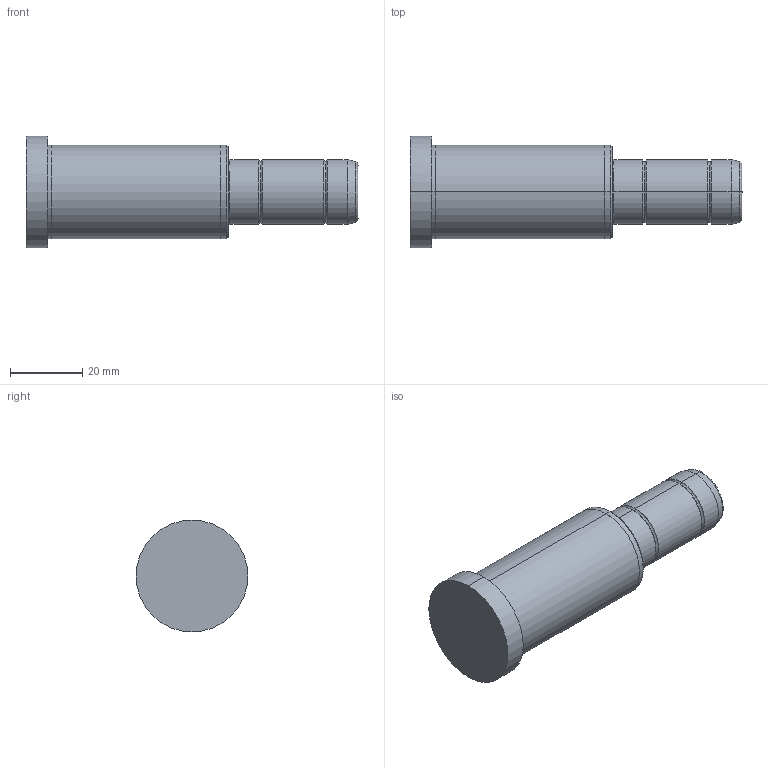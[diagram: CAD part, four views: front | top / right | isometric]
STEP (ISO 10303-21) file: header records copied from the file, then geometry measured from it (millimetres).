
FILE_DESCRIPTION( ( 'STEP AP203' ), '1' );
FILE_NAME( 'C:/Projects/D02 - 18x56x36.step', '2003-01-04T13:32:51', ( ' ' ), ( ' ' ), 'XStep 1.0', ' ', ' ' );
FILE_SCHEMA( ( 'CONFIG_CONTROL_DESIGN' ) );
Length unit declared in the file: metre
Products named in the file (1): 1
Bounding box: 92 x 31 x 31 mm (x, y, z)
Volume: 40152.1 mm3; surface area: 8183.1 mm2
Topology: 1 solids, 1 shells, 36 faces, 70 edges, 40 vertices
Faces by surface type: bspline 18, revolution 18
Entity records: 1127 total; most frequent: CARTESIAN_POINT 417, ORIENTED_EDGE 140, DIRECTION 118, EDGE_CURVE 70, AXIS2_PLACEMENT_3D 41, EDGE_LOOP 40, VERTEX_POINT 40, CIRCLE 40
